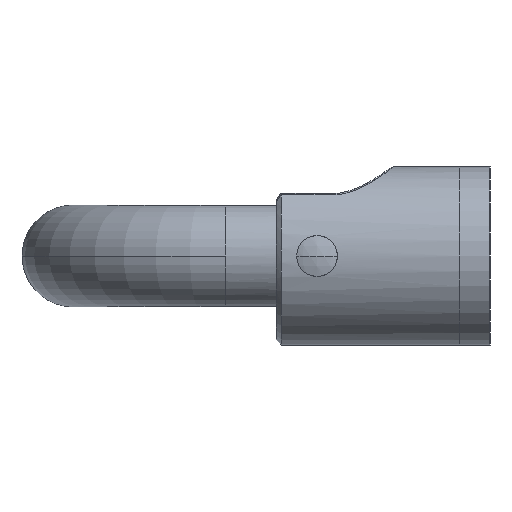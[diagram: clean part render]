
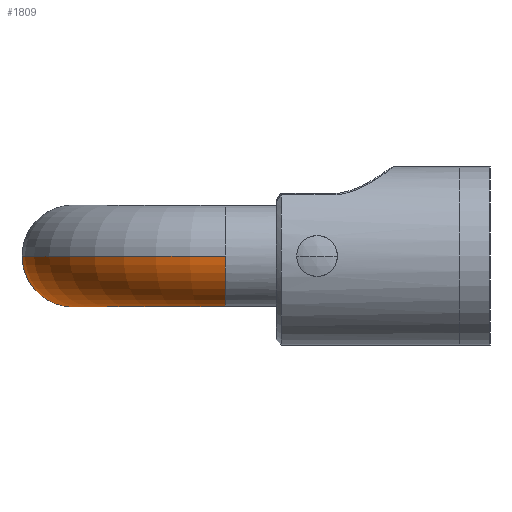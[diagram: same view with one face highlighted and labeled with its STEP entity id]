
A CAD part, left-side view. The second image highlights one B-rep face of the part: STEP entity #1809.
In plain terms, the highlighted toroidal (fillet/blend) face has major radius 15 mm and minor radius 5 mm.
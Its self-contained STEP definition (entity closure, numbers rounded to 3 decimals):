
#40 = FACE_OUTER_BOUND ( 'NONE', #2130, .T. ) ;
#141 = CIRCLE ( 'NONE', #965, 5. ) ;
#421 = EDGE_CURVE ( 'NONE', #1323, #4334, #5046, .T. ) ;
#472 = CARTESIAN_POINT ( 'NONE',  ( -45.75, 26., 0. ) ) ;
#481 = CARTESIAN_POINT ( 'NONE',  ( -35.75, 26., 0. ) ) ;
#697 = CARTESIAN_POINT ( 'NONE',  ( -35.75, 36., 0. ) ) ;
#965 = AXIS2_PLACEMENT_3D ( 'NONE', #2796, #4942, #2768 ) ;
#1009 = EDGE_CURVE ( 'NONE', #3740, #5480, #3268, .T. ) ;
#1042 = ORIENTED_EDGE ( 'NONE', *, *, #421, .T. ) ;
#1087 = ORIENTED_EDGE ( 'NONE', *, *, #5039, .F. ) ;
#1200 = TOROIDAL_SURFACE ( 'NONE', #2514, 15., 5. ) ;
#1207 = CARTESIAN_POINT ( 'NONE',  ( -50.75, 26., -5. ) ) ;
#1235 = AXIS2_PLACEMENT_3D ( 'NONE', #2769, #2348, #4505 ) ;
#1323 = VERTEX_POINT ( 'NONE', #2035 ) ;
#1567 = DIRECTION ( 'NONE',  ( 0., 1., 0. ) ) ;
#1702 = ORIENTED_EDGE ( 'NONE', *, *, #2603, .T. ) ;
#1706 = AXIS2_PLACEMENT_3D ( 'NONE', #481, #3558, #3104 ) ;
#1809 = ADVANCED_FACE ( 'NONE', ( #40 ), #1200, .T. ) ;
#1855 = AXIS2_PLACEMENT_3D ( 'NONE', #2343, #2250, #5372 ) ;
#1883 = ORIENTED_EDGE ( 'NONE', *, *, #2256, .F. ) ;
#2035 = CARTESIAN_POINT ( 'NONE',  ( -55.75, 26., 0. ) ) ;
#2041 = VERTEX_POINT ( 'NONE', #697 ) ;
#2130 = EDGE_LOOP ( 'NONE', ( #1702, #1042, #1087, #1883, #5436, #2554 ) ) ;
#2149 = CARTESIAN_POINT ( 'NONE',  ( -35.75, 26., 0. ) ) ;
#2250 = DIRECTION ( 'NONE',  ( 0., 0., -1. ) ) ;
#2256 = EDGE_CURVE ( 'NONE', #2041, #2975, #2872, .T. ) ;
#2343 = CARTESIAN_POINT ( 'NONE',  ( -35.75, 26., 0. ) ) ;
#2348 = DIRECTION ( 'NONE',  ( 1., 0., 0. ) ) ;
#2514 = AXIS2_PLACEMENT_3D ( 'NONE', #2149, #5242, #3880 ) ;
#2554 = ORIENTED_EDGE ( 'NONE', *, *, #1009, .T. ) ;
#2603 = EDGE_CURVE ( 'NONE', #5480, #1323, #141, .T. ) ;
#2614 = DIRECTION ( 'NONE',  ( 0., 0., 1. ) ) ;
#2768 = DIRECTION ( 'NONE',  ( 0., 0., 1. ) ) ;
#2769 = CARTESIAN_POINT ( 'NONE',  ( -35.75, 41., 0. ) ) ;
#2796 = CARTESIAN_POINT ( 'NONE',  ( -50.75, 26., 0. ) ) ;
#2872 = CIRCLE ( 'NONE', #1235, 5. ) ;
#2975 = VERTEX_POINT ( 'NONE', #4227 ) ;
#3104 = DIRECTION ( 'NONE',  ( -1., 0., 0. ) ) ;
#3260 = AXIS2_PLACEMENT_3D ( 'NONE', #5070, #5530, #4550 ) ;
#3268 = CIRCLE ( 'NONE', #3714, 5. ) ;
#3363 = CARTESIAN_POINT ( 'NONE',  ( -35.75, 46., 0. ) ) ;
#3558 = DIRECTION ( 'NONE',  ( 0., 0., -1. ) ) ;
#3714 = AXIS2_PLACEMENT_3D ( 'NONE', #4700, #1567, #2614 ) ;
#3740 = VERTEX_POINT ( 'NONE', #472 ) ;
#3880 = DIRECTION ( 'NONE',  ( -1., 0., 0. ) ) ;
#4227 = CARTESIAN_POINT ( 'NONE',  ( -35.75, 41., -5. ) ) ;
#4334 = VERTEX_POINT ( 'NONE', #3363 ) ;
#4505 = DIRECTION ( 'NONE',  ( 0., 0., 1. ) ) ;
#4550 = DIRECTION ( 'NONE',  ( 0., 0., 1. ) ) ;
#4614 = CIRCLE ( 'NONE', #1706, 10. ) ;
#4700 = CARTESIAN_POINT ( 'NONE',  ( -50.75, 26., 0. ) ) ;
#4731 = EDGE_CURVE ( 'NONE', #3740, #2041, #4614, .T. ) ;
#4942 = DIRECTION ( 'NONE',  ( 0., 1., 0. ) ) ;
#5039 = EDGE_CURVE ( 'NONE', #2975, #4334, #5456, .T. ) ;
#5046 = CIRCLE ( 'NONE', #1855, 20. ) ;
#5070 = CARTESIAN_POINT ( 'NONE',  ( -35.75, 41., 0. ) ) ;
#5242 = DIRECTION ( 'NONE',  ( 0., 0., -1. ) ) ;
#5372 = DIRECTION ( 'NONE',  ( -1., 0., 0. ) ) ;
#5436 = ORIENTED_EDGE ( 'NONE', *, *, #4731, .F. ) ;
#5456 = CIRCLE ( 'NONE', #3260, 5. ) ;
#5480 = VERTEX_POINT ( 'NONE', #1207 ) ;
#5530 = DIRECTION ( 'NONE',  ( 1., 0., 0. ) ) ;
